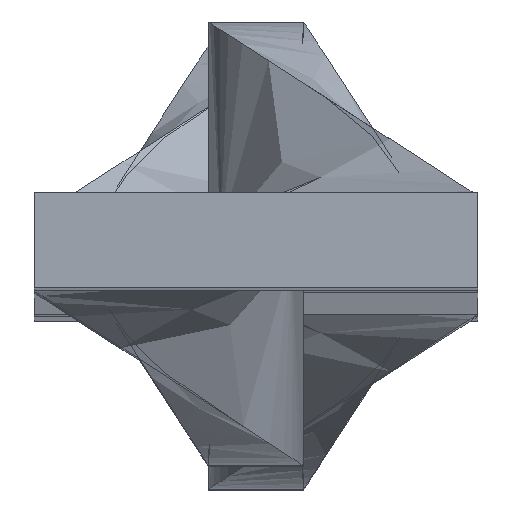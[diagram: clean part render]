
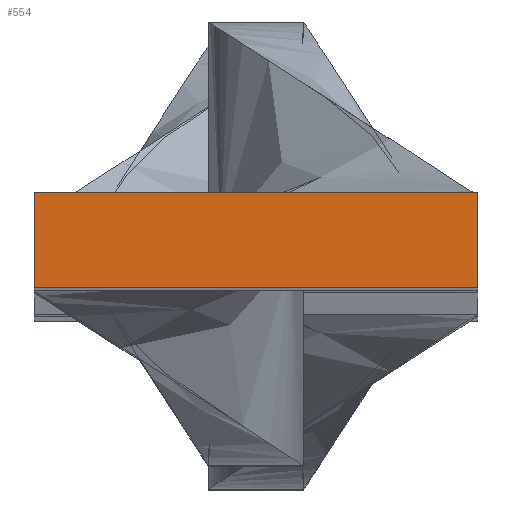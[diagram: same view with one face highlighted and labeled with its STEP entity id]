
A CAD part, top view. The second image highlights one B-rep face of the part: STEP entity #554.
In plain terms, the highlighted planar face has unit normal (0, 0, 1).
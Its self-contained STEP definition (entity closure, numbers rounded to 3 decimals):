
#8 = VERTEX_POINT ( 'NONE', #915 ) ;
#27 = CARTESIAN_POINT ( 'NONE',  ( 7., -1.5, 608.5 ) ) ;
#115 = CARTESIAN_POINT ( 'NONE',  ( 7., 1.5, 608.5 ) ) ;
#146 = ORIENTED_EDGE ( 'NONE', *, *, #1218, .F. ) ;
#171 = DIRECTION ( 'NONE',  ( 0., 1., 0. ) ) ;
#175 = VERTEX_POINT ( 'NONE', #115 ) ;
#185 = VECTOR ( 'NONE', #1178, 1000. ) ;
#244 = AXIS2_PLACEMENT_3D ( 'NONE', #651, #639, #630 ) ;
#318 = EDGE_CURVE ( 'NONE', #8, #1026, #700, .T. ) ;
#364 = CARTESIAN_POINT ( 'NONE',  ( 7., -1.5, 608.5 ) ) ;
#449 = VECTOR ( 'NONE', #1067, 1000. ) ;
#478 = EDGE_CURVE ( 'NONE', #1026, #175, #745, .T. ) ;
#523 = CARTESIAN_POINT ( 'NONE',  ( -7., -1.5, 608.5 ) ) ;
#550 = CARTESIAN_POINT ( 'NONE',  ( -7., 1.5, 608.5 ) ) ;
#554 = ADVANCED_FACE ( 'NONE', ( #986 ), #767, .F. ) ;
#559 = EDGE_LOOP ( 'NONE', ( #1160, #776, #146, #944 ) ) ;
#564 = CARTESIAN_POINT ( 'NONE',  ( 7., 1.5, 608.5 ) ) ;
#591 = VECTOR ( 'NONE', #812, 1000. ) ;
#630 = DIRECTION ( 'NONE',  ( -1., 0., 0. ) ) ;
#639 = DIRECTION ( 'NONE',  ( 0., 0., -1. ) ) ;
#651 = CARTESIAN_POINT ( 'NONE',  ( 0., 0., 608.5 ) ) ;
#700 = LINE ( 'NONE', #523, #966 ) ;
#728 = LINE ( 'NONE', #564, #185 ) ;
#745 = LINE ( 'NONE', #1152, #449 ) ;
#767 = PLANE ( 'NONE',  #244 ) ;
#776 = ORIENTED_EDGE ( 'NONE', *, *, #1290, .F. ) ;
#812 = DIRECTION ( 'NONE',  ( -1., 0., 0. ) ) ;
#915 = CARTESIAN_POINT ( 'NONE',  ( -7., -1.5, 608.5 ) ) ;
#944 = ORIENTED_EDGE ( 'NONE', *, *, #478, .F. ) ;
#966 = VECTOR ( 'NONE', #171, 1000. ) ;
#986 = FACE_OUTER_BOUND ( 'NONE', #559, .T. ) ;
#1026 = VERTEX_POINT ( 'NONE', #550 ) ;
#1067 = DIRECTION ( 'NONE',  ( 1., 0., 0. ) ) ;
#1128 = LINE ( 'NONE', #364, #591 ) ;
#1152 = CARTESIAN_POINT ( 'NONE',  ( -7., 1.5, 608.5 ) ) ;
#1160 = ORIENTED_EDGE ( 'NONE', *, *, #318, .F. ) ;
#1178 = DIRECTION ( 'NONE',  ( 0., -1., 0. ) ) ;
#1218 = EDGE_CURVE ( 'NONE', #175, #1255, #728, .T. ) ;
#1255 = VERTEX_POINT ( 'NONE', #27 ) ;
#1290 = EDGE_CURVE ( 'NONE', #1255, #8, #1128, .T. ) ;
